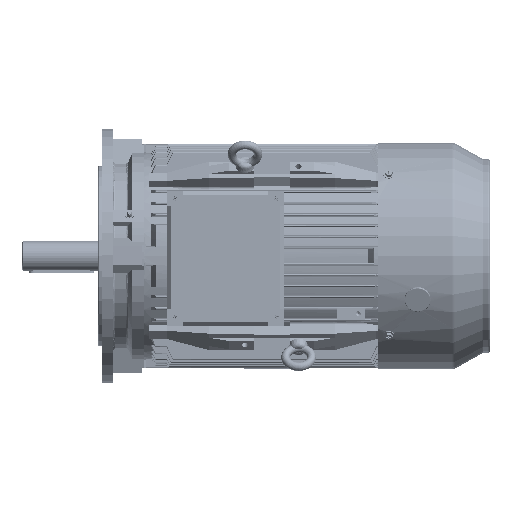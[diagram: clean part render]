
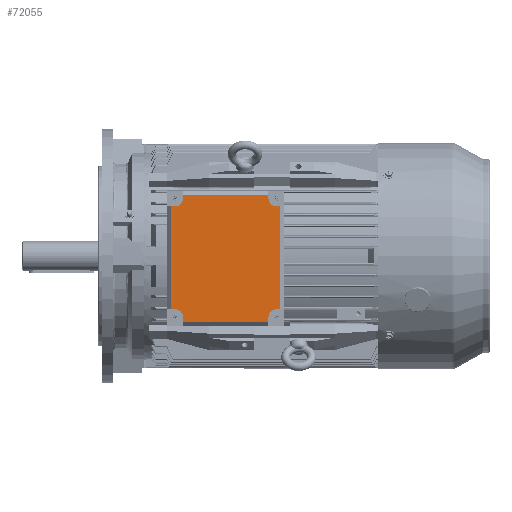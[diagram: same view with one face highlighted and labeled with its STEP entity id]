
A CAD part, top view. The second image highlights one B-rep face of the part: STEP entity #72055.
In plain terms, the highlighted planar face has unit normal (0, 0, 1).
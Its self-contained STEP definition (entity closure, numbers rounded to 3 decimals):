
#72032 = ORIENTED_EDGE ( 'NONE', *, *, #72034, .T. ) ;
#72034 = EDGE_CURVE ( 'NONE', #72124, #72036, #200527, .T. ) ;
#72036 = VERTEX_POINT ( 'NONE', #200518 ) ;
#72038 = ORIENTED_EDGE ( 'NONE', *, *, #72040, .F. ) ;
#72040 = EDGE_CURVE ( 'NONE', #72042, #72036, #200516, .T. ) ;
#72042 = VERTEX_POINT ( 'NONE', #200507 ) ;
#72055 = ADVANCED_FACE ( 'NONE', ( #200548 ), #200547, .T. ) ;
#72057 = EDGE_LOOP ( 'NONE', ( #72060, #72067, #72109, #72114, #72120, #72032, #72038, #72081, #72086, #72092, #72098, #72104, #72142, #72148, #72154, #72160 ) ) ;
#72060 = ORIENTED_EDGE ( 'NONE', *, *, #72062, .F. ) ;
#72062 = EDGE_CURVE ( 'NONE', #72063, #72065, #200536, .T. ) ;
#72063 = VERTEX_POINT ( 'NONE', #200595 ) ;
#72065 = VERTEX_POINT ( 'NONE', #200589 ) ;
#72067 = ORIENTED_EDGE ( 'NONE', *, *, #72069, .T. ) ;
#72069 = EDGE_CURVE ( 'NONE', #72063, #72071, #200587, .T. ) ;
#72071 = VERTEX_POINT ( 'NONE', #200578 ) ;
#72081 = ORIENTED_EDGE ( 'NONE', *, *, #72083, .F. ) ;
#72083 = EDGE_CURVE ( 'NONE', #72085, #72042, #200567, .T. ) ;
#72085 = VERTEX_POINT ( 'NONE', #200621 ) ;
#72086 = ORIENTED_EDGE ( 'NONE', *, *, #72088, .F. ) ;
#72088 = EDGE_CURVE ( 'NONE', #72089, #72085, #200620, .T. ) ;
#72089 = VERTEX_POINT ( 'NONE', #200616 ) ;
#72092 = ORIENTED_EDGE ( 'NONE', *, *, #72094, .T. ) ;
#72094 = EDGE_CURVE ( 'NONE', #72089, #72095, #200609, .T. ) ;
#72095 = VERTEX_POINT ( 'NONE', #200605 ) ;
#72098 = ORIENTED_EDGE ( 'NONE', *, *, #72100, .F. ) ;
#72100 = EDGE_CURVE ( 'NONE', #72102, #72095, #200598, .T. ) ;
#72102 = VERTEX_POINT ( 'NONE', #200650 ) ;
#72104 = ORIENTED_EDGE ( 'NONE', *, *, #72106, .F. ) ;
#72106 = EDGE_CURVE ( 'NONE', #72107, #72102, #200648, .T. ) ;
#72107 = VERTEX_POINT ( 'NONE', #200643 ) ;
#72109 = ORIENTED_EDGE ( 'NONE', *, *, #72111, .F. ) ;
#72111 = EDGE_CURVE ( 'NONE', #72113, #72071, #200637, .T. ) ;
#72113 = VERTEX_POINT ( 'NONE', #200628 ) ;
#72114 = ORIENTED_EDGE ( 'NONE', *, *, #72116, .F. ) ;
#72116 = EDGE_CURVE ( 'NONE', #72118, #72113, #200627, .T. ) ;
#72118 = VERTEX_POINT ( 'NONE', #200679 ) ;
#72120 = ORIENTED_EDGE ( 'NONE', *, *, #72122, .F. ) ;
#72122 = EDGE_CURVE ( 'NONE', #72124, #72118, #200677, .T. ) ;
#72124 = VERTEX_POINT ( 'NONE', #200668 ) ;
#72142 = ORIENTED_EDGE ( 'NONE', *, *, #72143, .F. ) ;
#72143 = EDGE_CURVE ( 'NONE', #72145, #72107, #200696, .T. ) ;
#72145 = VERTEX_POINT ( 'NONE', #200692 ) ;
#72148 = ORIENTED_EDGE ( 'NONE', *, *, #72150, .T. ) ;
#72150 = EDGE_CURVE ( 'NONE', #72145, #72151, #200747, .T. ) ;
#72151 = VERTEX_POINT ( 'NONE', #200743 ) ;
#72154 = ORIENTED_EDGE ( 'NONE', *, *, #72156, .F. ) ;
#72156 = EDGE_CURVE ( 'NONE', #72157, #72151, #200737, .T. ) ;
#72157 = VERTEX_POINT ( 'NONE', #200733 ) ;
#72160 = ORIENTED_EDGE ( 'NONE', *, *, #72162, .F. ) ;
#72162 = EDGE_CURVE ( 'NONE', #72065, #72157, #200726, .T. ) ;
#200507 = CARTESIAN_POINT ( 'NONE',  ( -82.5, -59., 12. ) ) ;
#200513 = DIRECTION ( 'NONE',  ( -1., 0., 0. ) ) ;
#200514 = VECTOR ( 'NONE', #200513, 1000. ) ;
#200515 = CARTESIAN_POINT ( 'NONE',  ( -93.5, -59., 12. ) ) ;
#200516 = LINE ( 'NONE', #200515, #200514 ) ;
#200518 = CARTESIAN_POINT ( 'NONE',  ( -87.5, -59., 12. ) ) ;
#200524 = DIRECTION ( 'NONE',  ( 0., -1., 0. ) ) ;
#200525 = VECTOR ( 'NONE', #200524, 1000. ) ;
#200526 = CARTESIAN_POINT ( 'NONE',  ( -87.5, -59., 12. ) ) ;
#200527 = LINE ( 'NONE', #200526, #200525 ) ;
#200533 = DIRECTION ( 'NONE',  ( 0., -1., 0. ) ) ;
#200534 = VECTOR ( 'NONE', #200533, 1000. ) ;
#200535 = CARTESIAN_POINT ( 'NONE',  ( 70.5, 81., 12. ) ) ;
#200536 = LINE ( 'NONE', #200535, #200534 ) ;
#200543 = DIRECTION ( 'NONE',  ( 1., 0., 0. ) ) ;
#200544 = DIRECTION ( 'NONE',  ( 0., 0., 1. ) ) ;
#200545 = CARTESIAN_POINT ( 'NONE',  ( -93.5, -81., 12. ) ) ;
#200546 = AXIS2_PLACEMENT_3D ( 'NONE', #200545, #200544, #200543 ) ;
#200547 = PLANE ( 'NONE',  #200546 ) ;
#200548 = FACE_OUTER_BOUND ( 'NONE', #72057, .T. ) ;
#200564 = DIRECTION ( 'NONE',  ( 0., 0., 1. ) ) ;
#200565 = CARTESIAN_POINT ( 'NONE',  ( -82.5, -70., 12. ) ) ;
#200566 = AXIS2_PLACEMENT_3D ( 'NONE', #200565, #200564, #200626 ) ;
#200567 = CIRCLE ( 'NONE', #200566, 11. ) ;
#200578 = CARTESIAN_POINT ( 'NONE',  ( -71.5, 75., 12. ) ) ;
#200584 = DIRECTION ( 'NONE',  ( -1., 0., 0. ) ) ;
#200585 = VECTOR ( 'NONE', #200584, 1000. ) ;
#200586 = CARTESIAN_POINT ( 'NONE',  ( -71.5, 75., 12. ) ) ;
#200587 = LINE ( 'NONE', #200586, #200585 ) ;
#200589 = CARTESIAN_POINT ( 'NONE',  ( 70.5, 70., 12. ) ) ;
#200595 = CARTESIAN_POINT ( 'NONE',  ( 70.5, 75., 12. ) ) ;
#200596 = VECTOR ( 'NONE', #200656, 1000. ) ;
#200597 = CARTESIAN_POINT ( 'NONE',  ( 70.5, -81., 12. ) ) ;
#200598 = LINE ( 'NONE', #200597, #200596 ) ;
#200605 = CARTESIAN_POINT ( 'NONE',  ( 70.5, -75., 12. ) ) ;
#200606 = DIRECTION ( 'NONE',  ( 1., 0., 0. ) ) ;
#200607 = VECTOR ( 'NONE', #200606, 1000. ) ;
#200608 = CARTESIAN_POINT ( 'NONE',  ( 70.5, -75., 12. ) ) ;
#200609 = LINE ( 'NONE', #200608, #200607 ) ;
#200616 = CARTESIAN_POINT ( 'NONE',  ( -71.5, -75., 12. ) ) ;
#200617 = DIRECTION ( 'NONE',  ( 0., 1., 0. ) ) ;
#200618 = VECTOR ( 'NONE', #200617, 1000. ) ;
#200619 = CARTESIAN_POINT ( 'NONE',  ( -71.5, -81., 12. ) ) ;
#200620 = LINE ( 'NONE', #200619, #200618 ) ;
#200621 = CARTESIAN_POINT ( 'NONE',  ( -71.5, -70., 12. ) ) ;
#200626 = DIRECTION ( 'NONE',  ( -1., 0., 0. ) ) ;
#200627 = CIRCLE ( 'NONE', #200687, 11. ) ;
#200628 = CARTESIAN_POINT ( 'NONE',  ( -71.5, 70., 12. ) ) ;
#200634 = DIRECTION ( 'NONE',  ( 0., 1., 0. ) ) ;
#200635 = VECTOR ( 'NONE', #200634, 1000. ) ;
#200636 = CARTESIAN_POINT ( 'NONE',  ( -71.5, 81., 12. ) ) ;
#200637 = LINE ( 'NONE', #200636, #200635 ) ;
#200643 = CARTESIAN_POINT ( 'NONE',  ( 81.5, -59., 12. ) ) ;
#200644 = DIRECTION ( 'NONE',  ( 1., 0., 0. ) ) ;
#200645 = DIRECTION ( 'NONE',  ( 0., 0., 1. ) ) ;
#200646 = CARTESIAN_POINT ( 'NONE',  ( 81.5, -70., 12. ) ) ;
#200647 = AXIS2_PLACEMENT_3D ( 'NONE', #200646, #200645, #200644 ) ;
#200648 = CIRCLE ( 'NONE', #200647, 11. ) ;
#200650 = CARTESIAN_POINT ( 'NONE',  ( 70.5, -70., 12. ) ) ;
#200656 = DIRECTION ( 'NONE',  ( 0., -1., 0. ) ) ;
#200668 = CARTESIAN_POINT ( 'NONE',  ( -87.5, 59., 12. ) ) ;
#200674 = DIRECTION ( 'NONE',  ( 1., 0., 0. ) ) ;
#200675 = VECTOR ( 'NONE', #200674, 1000. ) ;
#200676 = CARTESIAN_POINT ( 'NONE',  ( -93.5, 59., 12. ) ) ;
#200677 = LINE ( 'NONE', #200676, #200675 ) ;
#200679 = CARTESIAN_POINT ( 'NONE',  ( -82.5, 59., 12. ) ) ;
#200684 = DIRECTION ( 'NONE',  ( 1., 0., 0. ) ) ;
#200685 = DIRECTION ( 'NONE',  ( 0., 0., 1. ) ) ;
#200686 = CARTESIAN_POINT ( 'NONE',  ( -82.5, 70., 12. ) ) ;
#200687 = AXIS2_PLACEMENT_3D ( 'NONE', #200686, #200685, #200684 ) ;
#200692 = CARTESIAN_POINT ( 'NONE',  ( 87.5, -59., 12. ) ) ;
#200693 = DIRECTION ( 'NONE',  ( -1., 0., 0. ) ) ;
#200694 = VECTOR ( 'NONE', #200693, 1000. ) ;
#200695 = CARTESIAN_POINT ( 'NONE',  ( 93.5, -59., 12. ) ) ;
#200696 = LINE ( 'NONE', #200695, #200694 ) ;
#200722 = DIRECTION ( 'NONE',  ( -1., 0., 0. ) ) ;
#200723 = DIRECTION ( 'NONE',  ( 0., 0., 1. ) ) ;
#200724 = CARTESIAN_POINT ( 'NONE',  ( 81.5, 70., 12. ) ) ;
#200725 = AXIS2_PLACEMENT_3D ( 'NONE', #200724, #200723, #200722 ) ;
#200726 = CIRCLE ( 'NONE', #200725, 11. ) ;
#200733 = CARTESIAN_POINT ( 'NONE',  ( 81.5, 59., 12. ) ) ;
#200734 = DIRECTION ( 'NONE',  ( 1., 0., 0. ) ) ;
#200735 = VECTOR ( 'NONE', #200734, 1000. ) ;
#200736 = CARTESIAN_POINT ( 'NONE',  ( 93.5, 59., 12. ) ) ;
#200737 = LINE ( 'NONE', #200736, #200735 ) ;
#200743 = CARTESIAN_POINT ( 'NONE',  ( 87.5, 59., 12. ) ) ;
#200744 = DIRECTION ( 'NONE',  ( 0., 1., 0. ) ) ;
#200745 = VECTOR ( 'NONE', #200744, 1000. ) ;
#200746 = CARTESIAN_POINT ( 'NONE',  ( 87.5, 59., 12. ) ) ;
#200747 = LINE ( 'NONE', #200746, #200745 ) ;
